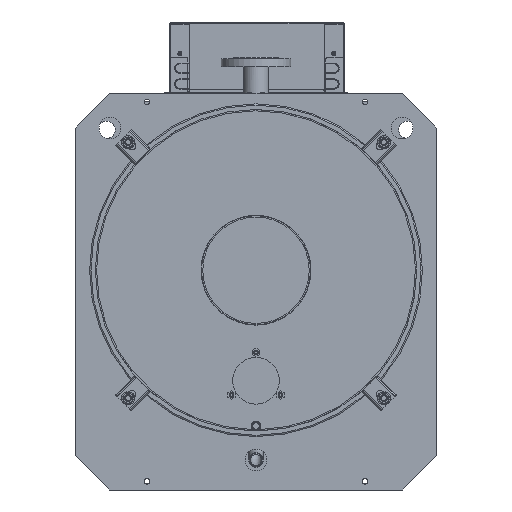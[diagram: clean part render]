
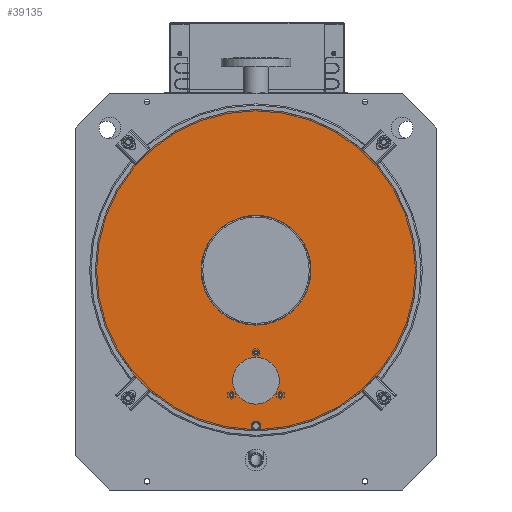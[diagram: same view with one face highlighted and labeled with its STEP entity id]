
A CAD part, left-side view. The second image highlights one B-rep face of the part: STEP entity #39135.
In plain terms, the highlighted planar face has unit normal (-1, 0, 0) by its records, which use the part's own axes.
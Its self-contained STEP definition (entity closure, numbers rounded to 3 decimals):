
#39135=ADVANCED_FACE('',(#95014,#95016,#95018,#95020,#95022,#95024),#95026,.T.);
#95014=FACE_BOUND('',#95015,.T.);
#95015=EDGE_LOOP('',(#115910,#115911,#115912,#115913,#115914,#115915,#115916,#115917,
#115918,#115919));
#95016=FACE_BOUND('',#95017,.T.);
#95017=EDGE_LOOP('',(#115920));
#95018=FACE_BOUND('',#95019,.T.);
#95019=EDGE_LOOP('',(#115921));
#95020=FACE_BOUND('',#95021,.T.);
#95021=EDGE_LOOP('',(#115922));
#95022=FACE_BOUND('',#95023,.T.);
#95023=EDGE_LOOP('',(#115923));
#95024=FACE_BOUND('',#95025,.T.);
#95025=EDGE_LOOP('',(#115924));
#95026=PLANE('',#95027);
#95027=AXIS2_PLACEMENT_3D('',#95028,#95029,#95030);
#95028=CARTESIAN_POINT('',(-1126.,0.,0.));
#95029=DIRECTION('',(-1.,0.,0.));
#95030=DIRECTION('',(0.,-1.,0.));
#115910=ORIENTED_EDGE('',*,*,#127454,.F.);
#115911=ORIENTED_EDGE('',*,*,#127455,.T.);
#115912=ORIENTED_EDGE('',*,*,#127456,.F.);
#115913=ORIENTED_EDGE('',*,*,#127457,.T.);
#115914=ORIENTED_EDGE('',*,*,#127389,.T.);
#115915=ORIENTED_EDGE('',*,*,#127458,.T.);
#115916=ORIENTED_EDGE('',*,*,#127459,.T.);
#115917=ORIENTED_EDGE('',*,*,#127460,.T.);
#115918=ORIENTED_EDGE('',*,*,#127385,.T.);
#115919=ORIENTED_EDGE('',*,*,#127453,.T.);
#115920=ORIENTED_EDGE('',*,*,#127461,.T.);
#115921=ORIENTED_EDGE('',*,*,#127462,.T.);
#115922=ORIENTED_EDGE('',*,*,#127463,.T.);
#115923=ORIENTED_EDGE('',*,*,#127464,.T.);
#115924=ORIENTED_EDGE('',*,*,#127465,.T.);
#127385=EDGE_CURVE('',#146013,#146011,#146014,.T.);
#127389=EDGE_CURVE('',#146021,#146019,#146022,.T.);
#127453=EDGE_CURVE('',#146011,#146130,#146132,.F.);
#127454=EDGE_CURVE('',#146133,#146130,#146134,.F.);
#127455=EDGE_CURVE('',#146133,#146135,#146136,.F.);
#127456=EDGE_CURVE('',#146137,#146135,#146138,.F.);
#127457=EDGE_CURVE('',#146137,#146021,#146139,.F.);
#127458=EDGE_CURVE('',#146019,#146140,#146141,.F.);
#127459=EDGE_CURVE('',#146140,#146142,#146143,.F.);
#127460=EDGE_CURVE('',#146142,#146013,#146144,.F.);
#127461=EDGE_CURVE('',#146145,#146145,#146146,.F.);
#127462=EDGE_CURVE('',#146147,#146147,#146148,.F.);
#127463=EDGE_CURVE('',#146149,#146149,#146150,.F.);
#127464=EDGE_CURVE('',#146151,#146151,#146152,.F.);
#127465=EDGE_CURVE('',#146153,#146153,#146154,.F.);
#146011=VERTEX_POINT('',#213492);
#146013=VERTEX_POINT('',#213496);
#146014=CIRCLE('',#213497,368.5);
#146019=VERTEX_POINT('',#213510);
#146021=VERTEX_POINT('',#213514);
#146022=CIRCLE('',#213515,368.5);
#146130=VERTEX_POINT('',#213777);
#146132=LINE('',#213781,#213782);
#146133=VERTEX_POINT('',#213784);
#146134=CIRCLE('',#213785,0.5);
#146135=VERTEX_POINT('',#213789);
#146136=LINE('',#213790,#213791);
#146137=VERTEX_POINT('',#213793);
#146138=CIRCLE('',#213794,0.5);
#146139=LINE('',#213798,#213799);
#146140=VERTEX_POINT('',#213801);
#146141=LINE('',#213802,#213803);
#146142=VERTEX_POINT('',#213805);
#146143=CIRCLE('',#213806,11.);
#146144=LINE('',#213810,#213811);
#146145=VERTEX_POINT('',#213813);
#146146=CIRCLE('',#213814,126.);
#146147=VERTEX_POINT('',#213818);
#146148=CIRCLE('',#213819,53.5);
#146149=VERTEX_POINT('',#213823);
#146150=CIRCLE('',#213824,5.25);
#146151=VERTEX_POINT('',#213828);
#146152=CIRCLE('',#213829,5.25);
#146153=VERTEX_POINT('',#213833);
#146154=CIRCLE('',#213834,5.25);
#213492=CARTESIAN_POINT('',(-1126.,368.499,1.));
#213496=CARTESIAN_POINT('',(-1126.,-4.583,-368.472));
#213497=AXIS2_PLACEMENT_3D('',#213498,#213499,#213500);
#213498=CARTESIAN_POINT('',(-1126.,0.,0.));
#213499=DIRECTION('',(-1.,0.,0.));
#213500=DIRECTION('',(0.,-0.012,-1.));
#213510=CARTESIAN_POINT('',(-1126.,4.583,-368.472));
#213514=CARTESIAN_POINT('',(-1126.,368.499,-1.));
#213515=AXIS2_PLACEMENT_3D('',#213516,#213517,#213518);
#213516=CARTESIAN_POINT('',(-1126.,0.,0.));
#213517=DIRECTION('',(-1.,0.,0.));
#213518=DIRECTION('',(0.,1.,-0.003));
#213777=CARTESIAN_POINT('',(-1126.,366.,1.));
#213781=CARTESIAN_POINT('',(-1126.,366.,1.));
#213782=VECTOR('',#213783,1.);
#213783=DIRECTION('',(0.,1.,0.));
#213784=CARTESIAN_POINT('',(-1126.,365.5,0.5));
#213785=AXIS2_PLACEMENT_3D('',#213786,#213787,#213788);
#213786=CARTESIAN_POINT('',(-1126.,366.,0.5));
#213787=DIRECTION('',(1.,0.,0.));
#213788=DIRECTION('',(0.,0.,1.));
#213789=CARTESIAN_POINT('',(-1126.,365.5,-0.5));
#213790=CARTESIAN_POINT('',(-1126.,365.5,-0.5));
#213791=VECTOR('',#213792,1.);
#213792=DIRECTION('',(0.,0.,1.));
#213793=CARTESIAN_POINT('',(-1126.,366.,-1.));
#213794=AXIS2_PLACEMENT_3D('',#213795,#213796,#213797);
#213795=CARTESIAN_POINT('',(-1126.,366.,-0.5));
#213796=DIRECTION('',(1.,0.,0.));
#213797=DIRECTION('',(0.,-1.,0.));
#213798=CARTESIAN_POINT('',(-1126.,368.499,-1.));
#213799=VECTOR('',#213800,1.);
#213800=DIRECTION('',(0.,-1.,0.));
#213801=CARTESIAN_POINT('',(-1126.,4.583,-367.5));
#213802=CARTESIAN_POINT('',(-1126.,4.583,-367.5));
#213803=VECTOR('',#213804,1.);
#213804=DIRECTION('',(0.,0.,-1.));
#213805=CARTESIAN_POINT('',(-1126.,-4.583,-367.5));
#213806=AXIS2_PLACEMENT_3D('',#213807,#213808,#213809);
#213807=CARTESIAN_POINT('',(-1126.,0.,-357.5));
#213808=DIRECTION('',(-1.,0.,0.));
#213809=DIRECTION('',(0.,-0.417,-0.909));
#213810=CARTESIAN_POINT('',(-1126.,-4.583,-368.472));
#213811=VECTOR('',#213812,1.);
#213812=DIRECTION('',(0.,0.,1.));
#213813=CARTESIAN_POINT('',(-1126.,-126.,0.));
#213814=AXIS2_PLACEMENT_3D('',#213815,#213816,#213817);
#213815=CARTESIAN_POINT('',(-1126.,0.,0.));
#213816=DIRECTION('',(-1.,0.,0.));
#213817=DIRECTION('',(0.,-1.,0.));
#213818=CARTESIAN_POINT('',(-1126.,-53.5,-253.5));
#213819=AXIS2_PLACEMENT_3D('',#213820,#213821,#213822);
#213820=CARTESIAN_POINT('',(-1126.,0.,-253.5));
#213821=DIRECTION('',(-1.,0.,0.));
#213822=DIRECTION('',(0.,-1.,0.));
#213823=CARTESIAN_POINT('',(-1126.,-5.25,-188.5));
#213824=AXIS2_PLACEMENT_3D('',#213825,#213826,#213827);
#213825=CARTESIAN_POINT('',(-1126.,0.,-188.5));
#213826=DIRECTION('',(-1.,0.,0.));
#213827=DIRECTION('',(0.,-1.,0.));
#213828=CARTESIAN_POINT('',(-1126.,-61.542,-286.));
#213829=AXIS2_PLACEMENT_3D('',#213830,#213831,#213832);
#213830=CARTESIAN_POINT('',(-1126.,-56.292,-286.));
#213831=DIRECTION('',(-1.,0.,0.));
#213832=DIRECTION('',(0.,-1.,0.));
#213833=CARTESIAN_POINT('',(-1126.,51.042,-286.));
#213834=AXIS2_PLACEMENT_3D('',#213835,#213836,#213837);
#213835=CARTESIAN_POINT('',(-1126.,56.292,-286.));
#213836=DIRECTION('',(-1.,0.,0.));
#213837=DIRECTION('',(0.,-1.,0.));
